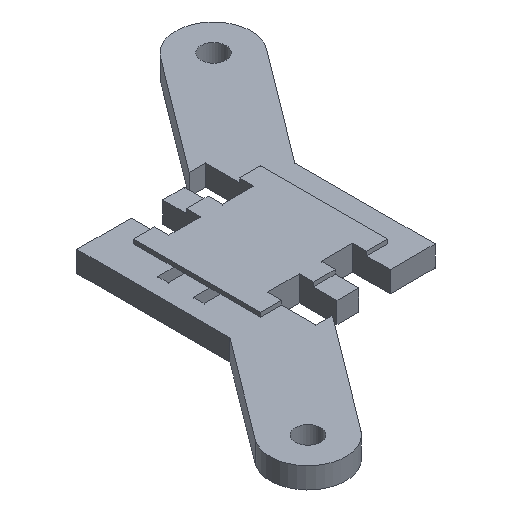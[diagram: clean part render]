
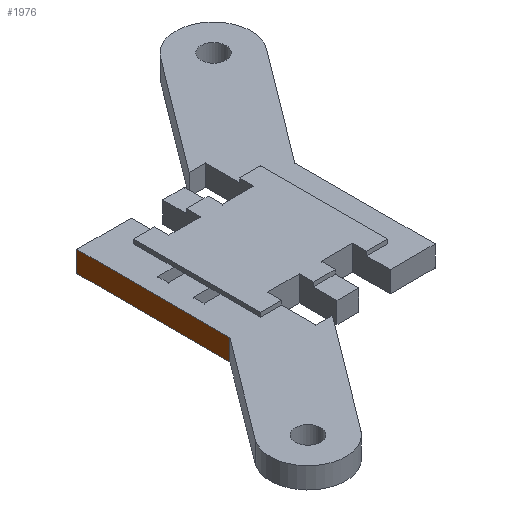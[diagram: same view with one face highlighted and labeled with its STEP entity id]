
A CAD part, isometric view. The second image highlights one B-rep face of the part: STEP entity #1976.
In plain terms, the highlighted planar face has unit normal (-1, 0, 0).
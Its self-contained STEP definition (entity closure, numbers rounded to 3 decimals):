
#100 = PLANE('',#101);
#101 = AXIS2_PLACEMENT_3D('',#102,#103,#104);
#102 = CARTESIAN_POINT('',(35.896,25.615,8.8));
#103 = DIRECTION('',(-0.,-0.,-1.));
#104 = DIRECTION('',(-1.,0.,0.));
#524 = VERTEX_POINT('',#525);
#525 = CARTESIAN_POINT('',(26.8,19.233,8.8));
#539 = PLANE('',#540);
#540 = AXIS2_PLACEMENT_3D('',#541,#542,#543);
#541 = CARTESIAN_POINT('',(19.62,9.66,8.8));
#542 = DIRECTION('',(-0.8,0.6,0.));
#543 = DIRECTION('',(0.6,0.8,0.));
#551 = EDGE_CURVE('',#524,#552,#554,.T.);
#552 = VERTEX_POINT('',#553);
#553 = CARTESIAN_POINT('',(26.8,33.8,8.8));
#554 = SURFACE_CURVE('',#555,(#559,#566),.PCURVE_S1.);
#555 = LINE('',#556,#557);
#556 = CARTESIAN_POINT('',(26.8,17.2,8.8));
#557 = VECTOR('',#558,1.);
#558 = DIRECTION('',(0.,1.,0.));
#559 = PCURVE('',#100,#560);
#560 = DEFINITIONAL_REPRESENTATION('',(#561),#565);
#561 = LINE('',#562,#563);
#562 = CARTESIAN_POINT('',(9.096,-8.415));
#563 = VECTOR('',#564,1.);
#564 = DIRECTION('',(0.,1.));
#565 = ( GEOMETRIC_REPRESENTATION_CONTEXT(2) 
PARAMETRIC_REPRESENTATION_CONTEXT() REPRESENTATION_CONTEXT('2D SPACE',''
  ) );
#566 = PCURVE('',#567,#572);
#567 = PLANE('',#568);
#568 = AXIS2_PLACEMENT_3D('',#569,#570,#571);
#569 = CARTESIAN_POINT('',(26.8,17.2,8.8));
#570 = DIRECTION('',(1.,0.,0.));
#571 = DIRECTION('',(0.,0.,1.));
#572 = DEFINITIONAL_REPRESENTATION('',(#573),#577);
#573 = LINE('',#574,#575);
#574 = CARTESIAN_POINT('',(0.,0.));
#575 = VECTOR('',#576,1.);
#576 = DIRECTION('',(0.,-1.));
#577 = ( GEOMETRIC_REPRESENTATION_CONTEXT(2) 
PARAMETRIC_REPRESENTATION_CONTEXT() REPRESENTATION_CONTEXT('2D SPACE',''
  ) );
#595 = PLANE('',#596);
#596 = AXIS2_PLACEMENT_3D('',#597,#598,#599);
#597 = CARTESIAN_POINT('',(26.8,33.8,8.8));
#598 = DIRECTION('',(0.,1.,0.));
#599 = DIRECTION('',(0.,0.,1.));
#1828 = PLANE('',#1829);
#1829 = AXIS2_PLACEMENT_3D('',#1830,#1831,#1832);
#1830 = CARTESIAN_POINT('',(35.896,25.615,10.8));
#1831 = DIRECTION('',(0.,0.,1.));
#1832 = DIRECTION('',(1.,0.,0.));
#1889 = VERTEX_POINT('',#1890);
#1890 = CARTESIAN_POINT('',(26.8,19.233,10.8));
#1911 = EDGE_CURVE('',#524,#1889,#1912,.T.);
#1912 = SURFACE_CURVE('',#1913,(#1917,#1923),.PCURVE_S1.);
#1913 = LINE('',#1914,#1915);
#1914 = CARTESIAN_POINT('',(26.8,19.233,8.8));
#1915 = VECTOR('',#1916,1.);
#1916 = DIRECTION('',(0.,0.,1.));
#1917 = PCURVE('',#539,#1918);
#1918 = DEFINITIONAL_REPRESENTATION('',(#1919),#1922);
#1919 = B_SPLINE_CURVE_WITH_KNOTS('',1,(#1920,#1921),.UNSPECIFIED.,.F.,
  .F.,(2,2),(0.,2.),.PIECEWISE_BEZIER_KNOTS.);
#1920 = CARTESIAN_POINT('',(11.967,0.));
#1921 = CARTESIAN_POINT('',(11.967,-2.));
#1922 = ( GEOMETRIC_REPRESENTATION_CONTEXT(2) 
PARAMETRIC_REPRESENTATION_CONTEXT() REPRESENTATION_CONTEXT('2D SPACE',''
  ) );
#1923 = PCURVE('',#567,#1924);
#1924 = DEFINITIONAL_REPRESENTATION('',(#1925),#1928);
#1925 = B_SPLINE_CURVE_WITH_KNOTS('',1,(#1926,#1927),.UNSPECIFIED.,.F.,
  .F.,(2,2),(0.,2.),.PIECEWISE_BEZIER_KNOTS.);
#1926 = CARTESIAN_POINT('',(0.,-2.033));
#1927 = CARTESIAN_POINT('',(2.,-2.033));
#1928 = ( GEOMETRIC_REPRESENTATION_CONTEXT(2) 
PARAMETRIC_REPRESENTATION_CONTEXT() REPRESENTATION_CONTEXT('2D SPACE',''
  ) );
#1976 = ADVANCED_FACE('',(#1977),#567,.F.);
#1977 = FACE_BOUND('',#1978,.F.);
#1978 = EDGE_LOOP('',(#1979,#1980,#1981,#2004));
#1979 = ORIENTED_EDGE('',*,*,#1911,.F.);
#1980 = ORIENTED_EDGE('',*,*,#551,.T.);
#1981 = ORIENTED_EDGE('',*,*,#1982,.T.);
#1982 = EDGE_CURVE('',#552,#1983,#1985,.T.);
#1983 = VERTEX_POINT('',#1984);
#1984 = CARTESIAN_POINT('',(26.8,33.8,10.8));
#1985 = SURFACE_CURVE('',#1986,(#1990,#1997),.PCURVE_S1.);
#1986 = LINE('',#1987,#1988);
#1987 = CARTESIAN_POINT('',(26.8,33.8,8.8));
#1988 = VECTOR('',#1989,1.);
#1989 = DIRECTION('',(0.,0.,1.));
#1990 = PCURVE('',#567,#1991);
#1991 = DEFINITIONAL_REPRESENTATION('',(#1992),#1996);
#1992 = LINE('',#1993,#1994);
#1993 = CARTESIAN_POINT('',(0.,-16.6));
#1994 = VECTOR('',#1995,1.);
#1995 = DIRECTION('',(1.,0.));
#1996 = ( GEOMETRIC_REPRESENTATION_CONTEXT(2) 
PARAMETRIC_REPRESENTATION_CONTEXT() REPRESENTATION_CONTEXT('2D SPACE',''
  ) );
#1997 = PCURVE('',#595,#1998);
#1998 = DEFINITIONAL_REPRESENTATION('',(#1999),#2003);
#1999 = LINE('',#2000,#2001);
#2000 = CARTESIAN_POINT('',(0.,0.));
#2001 = VECTOR('',#2002,1.);
#2002 = DIRECTION('',(1.,0.));
#2003 = ( GEOMETRIC_REPRESENTATION_CONTEXT(2) 
PARAMETRIC_REPRESENTATION_CONTEXT() REPRESENTATION_CONTEXT('2D SPACE',''
  ) );
#2004 = ORIENTED_EDGE('',*,*,#2005,.F.);
#2005 = EDGE_CURVE('',#1889,#1983,#2006,.T.);
#2006 = SURFACE_CURVE('',#2007,(#2011,#2018),.PCURVE_S1.);
#2007 = LINE('',#2008,#2009);
#2008 = CARTESIAN_POINT('',(26.8,17.2,10.8));
#2009 = VECTOR('',#2010,1.);
#2010 = DIRECTION('',(0.,1.,0.));
#2011 = PCURVE('',#567,#2012);
#2012 = DEFINITIONAL_REPRESENTATION('',(#2013),#2017);
#2013 = LINE('',#2014,#2015);
#2014 = CARTESIAN_POINT('',(2.,0.));
#2015 = VECTOR('',#2016,1.);
#2016 = DIRECTION('',(0.,-1.));
#2017 = ( GEOMETRIC_REPRESENTATION_CONTEXT(2) 
PARAMETRIC_REPRESENTATION_CONTEXT() REPRESENTATION_CONTEXT('2D SPACE',''
  ) );
#2018 = PCURVE('',#1828,#2019);
#2019 = DEFINITIONAL_REPRESENTATION('',(#2020),#2024);
#2020 = LINE('',#2021,#2022);
#2021 = CARTESIAN_POINT('',(-9.096,-8.415));
#2022 = VECTOR('',#2023,1.);
#2023 = DIRECTION('',(0.,1.));
#2024 = ( GEOMETRIC_REPRESENTATION_CONTEXT(2) 
PARAMETRIC_REPRESENTATION_CONTEXT() REPRESENTATION_CONTEXT('2D SPACE',''
  ) );
